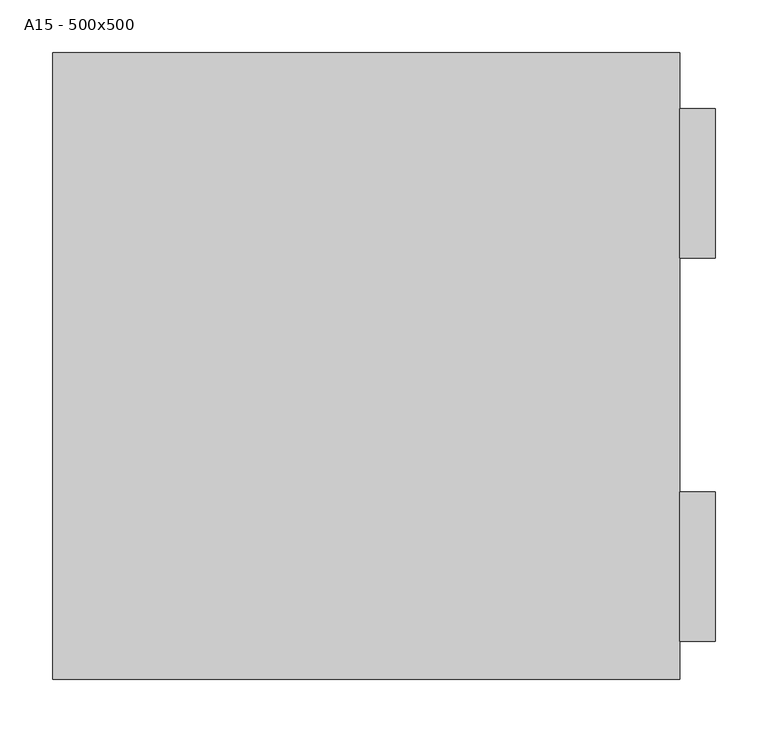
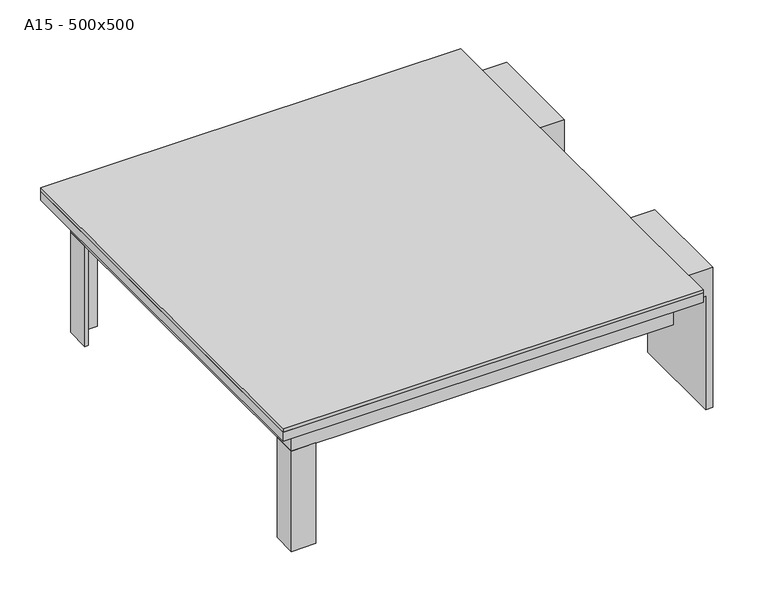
"""IFC4 building model written with IfcOpenShell, lengths in millimetres: proxy geometry, ME_ST_WPB_Access Cover SOLID ASSIST GS_ACO : A15 - 500x500."""

from ifc_helpers import new_model, si_unit, frame, origin, place, context, project, spatial, polyline, outline, extrude, faceted_brep, source, transform, mapped, element, save


def a15_500x500_c16634db(model_context):
    return source(origin(), model_context, "Body", "SolidModel", [
        extrude(outline(polyline([(0.0, 332.0), (0.0, 298.0), (-40.0, 298.0), (-40.0, 322.0), (-210.175026, 322.0), (-210.175026, 332.0), (0.0, 332.0)])), frame((0.0, -262.0, 0.0), z_axis=(0.0, 1.0, 0.0), x_axis=(0.0, 0.0, 1.0)), (0.0, 0.0, 1.0), 142.0),
        extrude(outline(polyline([(0.0, 332.0), (0.0, 298.0), (-40.0, 298.0), (-40.0, 322.0), (-210.175026, 322.0), (-210.175026, 332.0), (0.0, 332.0)])), frame((0.0, 102.5, 0.0), z_axis=(0.0, 1.0, 0.0), x_axis=(0.0, 0.0, 1.0)), (0.0, 0.0, 1.0), 142.0),
        extrude(outline(polyline([(-271.0, 271.0), (-236.0, 271.0), (-236.0, 266.0), (-266.0, 266.0), (-266.0, 236.0), (-271.0, 236.0), (-271.0, 271.0)])), frame((0.0, 0.0, -210.0), z_axis=(0.0, 0.0, 1.0), x_axis=(1.0, 0.0, 0.0)), (0.0, 0.0, 1.0), 150.5),
        extrude(outline(polyline([(-271.0, -271.0), (-271.0, -236.0), (-266.0, -236.0), (-266.0, -266.0), (-236.0, -266.0), (-236.0, -271.0), (-271.0, -271.0)])), frame((0.0, 0.0, -210.0), z_axis=(0.0, 0.0, 1.0), x_axis=(1.0, 0.0, 0.0)), (0.0, 0.0, 1.0), 150.5),
        extrude(outline(polyline([(298.0, 298.0), (298.0, -298.0), (-298.0, -298.0), (-298.0, 298.0), (298.0, 298.0)])), frame((0.0, 0.0, -5.0), z_axis=(0.0, 0.0, 1.0), x_axis=(1.0, 0.0, 0.0)), (0.0, 0.0, 1.0), 5.0),
        faceted_brep([(298.0, 298.0, -19.0), (298.0, 298.0, -5.0), (298.0, -298.0, -5.0), (298.0, -298.0, -19.0), (250.0, 250.0, -57.5), (250.0, 250.0, -59.5), (250.0, -250.0, -59.5), (250.0, -250.0, -57.5), (296.0, 296.0, -5.0), (296.0, 296.0, -17.0), (296.0, -296.0, -17.0), (296.0, -296.0, -5.0), (-298.0, -298.0, -5.0), (-298.0, -298.0, -19.0), (-250.0, -250.0, -59.5), (-250.0, -250.0, -57.5), (-296.0, -296.0, -17.0), (-296.0, -296.0, -5.0), (-298.0, 298.0, -5.0), (-298.0, 298.0, -19.0), (-250.0, 250.0, -59.5), (-250.0, 250.0, -57.5), (-296.0, 296.0, -17.0), (-296.0, 296.0, -5.0), (271.0, -271.0, -59.5), (-271.0, -271.0, -59.5), (-271.0, 271.0, -59.5), (271.0, 271.0, -59.5), (269.0, 269.0, -57.5), (-269.0, 269.0, -57.5), (-269.0, -269.0, -57.5), (269.0, -269.0, -57.5), (271.0, 271.0, -19.0), (271.0, -271.0, -19.0), (269.0, 269.0, -17.0), (269.0, -269.0, -17.0), (-271.0, -271.0, -19.0), (-269.0, -269.0, -17.0), (-271.0, 271.0, -19.0), (-269.0, 269.0, -17.0)], [[[0, 1, 2, 3]], [[4, 5, 6, 7]], [[8, 9, 10, 11]], [[3, 2, 12, 13]], [[7, 6, 14, 15]], [[11, 10, 16, 17]], [[13, 12, 18, 19]], [[15, 14, 20, 21]], [[17, 16, 22, 23]], [[19, 18, 1, 0]], [[24, 25, 26, 27], [5, 20, 14, 6]], [[21, 20, 5, 4]], [[28, 29, 30, 31], [7, 15, 21, 4]], [[23, 22, 9, 8]], [[27, 32, 33, 24]], [[34, 28, 31, 35]], [[24, 33, 36, 25]], [[35, 31, 30, 37]], [[25, 36, 38, 26]], [[37, 30, 29, 39]], [[3, 13, 19, 0], [32, 38, 36, 33]], [[26, 38, 32, 27]], [[39, 29, 28, 34]], [[9, 22, 16, 10], [35, 37, 39, 34]], [[1, 18, 12, 2], [11, 17, 23, 8]]]),
    ])


if __name__ == "__main__":
    model = new_model("IFC4")
    model_context = context("Model", 3, world=origin())
    ifc_project = project(units=[si_unit("LENGTHUNIT", "METRE", prefix="MILLI")], contexts=[model_context])
    site = spatial("IfcSite", under=ifc_project)
    building = spatial("IfcBuilding", under=site)
    placement = place(None, origin())
    a15_500x500_shape = a15_500x500_c16634db(model_context)
    element("IfcBuildingElementProxy", 1, Name="ME_ST_WPB_Access Cover SOLID ASSIST GS_ACO : A15 - 500x500", ObjectType="ME_ST_WPB_Access Cover SOLID ASSIST GS_ACO : A15 - 500x500", at=placement, inside=building, context=model_context, shape_type="MappedRepresentation", body=[
        mapped(a15_500x500_shape, transform((0.0, 0.0, 0.0), x_axis=(1.0, 0.0, 0.0), y_axis=(0.0, 1.0, 0.0), z_axis=(0.0, 0.0, 1.0))),
    ])
    save(model, "model.ifc")
